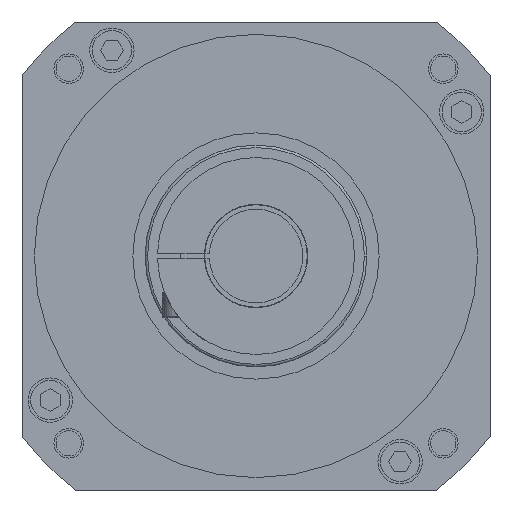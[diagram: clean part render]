
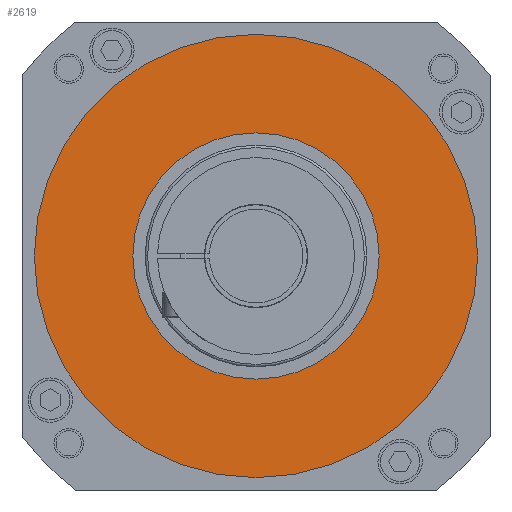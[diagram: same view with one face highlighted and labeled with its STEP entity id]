
A CAD part, left-side view. The second image highlights one B-rep face of the part: STEP entity #2619.
In plain terms, the highlighted planar face has unit normal (-1, 0, 0).
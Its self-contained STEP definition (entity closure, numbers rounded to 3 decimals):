
#267=CARTESIAN_POINT('',(6.25,0.,0.));
#268=DIRECTION('',(1.,0.,0.));
#269=DIRECTION('',(0.,-1.,0.));
#270=AXIS2_PLACEMENT_3D('',#267,#268,#269);
#276=CARTESIAN_POINT('',(6.25,0.,0.));
#277=DIRECTION('',(-1.,0.,0.));
#278=DIRECTION('',(0.,-1.,0.));
#279=AXIS2_PLACEMENT_3D('',#276,#277,#278);
#285=CARTESIAN_POINT('',(6.25,0.,0.));
#286=DIRECTION('',(-1.,0.,0.));
#287=DIRECTION('',(0.,0.,1.));
#288=AXIS2_PLACEMENT_3D('',#285,#286,#287);
#294=CARTESIAN_POINT('',(6.25,0.,0.));
#295=DIRECTION('',(-1.,0.,0.));
#296=DIRECTION('',(0.,0.,-1.));
#297=AXIS2_PLACEMENT_3D('',#294,#295,#296);
#1935=CARTESIAN_POINT('',(6.25,-90.,0.));
#1936=VERTEX_POINT('',#1935);
#1937=CARTESIAN_POINT('',(6.25,90.,0.));
#1938=VERTEX_POINT('',#1937);
#2167=CARTESIAN_POINT('',(6.25,0.,50.));
#2168=CARTESIAN_POINT('',(6.25,0.,-50.));
#2169=VERTEX_POINT('',#2167);
#2170=VERTEX_POINT('',#2168);
#2604=CARTESIAN_POINT('',(6.25,0.,0.));
#2605=DIRECTION('',(1.,0.,0.));
#2606=DIRECTION('',(0.,1.,0.));
#2607=AXIS2_PLACEMENT_3D('',#2604,#2605,#2606);
#2608=PLANE('',#2607);
#2609=ORIENTED_EDGE('',*,*,#2598,.F.);
#2610=ORIENTED_EDGE('',*,*,#2584,.T.);
#2611=EDGE_LOOP('',(#2609,#2610));
#2612=FACE_OUTER_BOUND('',#2611,.F.);
#2614=ORIENTED_EDGE('',*,*,#2613,.T.);
#2616=ORIENTED_EDGE('',*,*,#2615,.T.);
#2617=EDGE_LOOP('',(#2614,#2616));
#2618=FACE_BOUND('',#2617,.F.);
#271=CIRCLE('',#270,90.);
#280=CIRCLE('',#279,90.);
#289=CIRCLE('',#288,50.);
#298=CIRCLE('',#297,50.);
#2584=EDGE_CURVE('',#1936,#1938,#271,.T.);
#2598=EDGE_CURVE('',#1936,#1938,#280,.T.);
#2613=EDGE_CURVE('',#2169,#2170,#289,.T.);
#2615=EDGE_CURVE('',#2170,#2169,#298,.T.);
#2619=ADVANCED_FACE('',(#2612,#2618),#2608,.F.);
